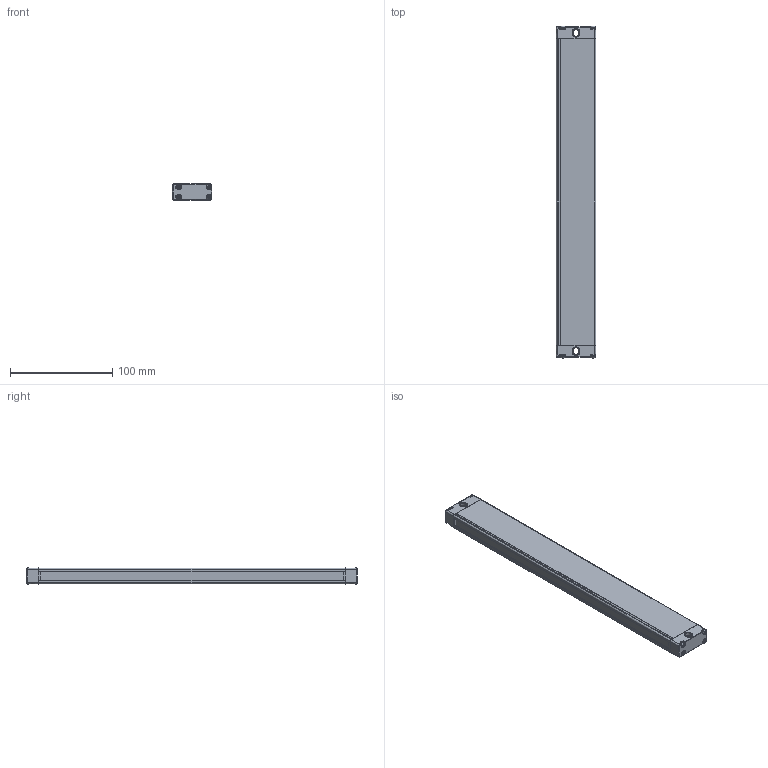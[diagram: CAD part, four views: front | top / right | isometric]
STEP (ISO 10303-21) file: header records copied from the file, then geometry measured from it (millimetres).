
FILE_DESCRIPTION((''),'2;1');
FILE_NAME('EB15--3610_ASM','2021-07-22T11:15:20',('18720616900'),(''),'CREO PARAMETRIC BY PTC INC, 2019010','CREO PARAMETRIC BY PTC INC, 2019010','');
FILE_SCHEMA(('CONFIG_CONTROL_DESIGN'));
Length unit declared in the file: millimetre
Products named in the file (6): EB15-00; EB15-000; EB15-0003; EB15-0004; ST-3-12; EB15--3610_ASM
Assembly tree (12 placements, depth 2):
  EB15--3610_ASM
    EB15-00
    EB15-000
    EB15-0003
    EB15-0004
    ST-3-12  x8
Bounding box: 39.15 x 325 x 15.8 mm (x, y, z)
Volume: 194787.5 mm3; surface area: 51242.3 mm2
Topology: 12 solids, 12 shells, 827 faces, 2188 edges, 1368 vertices
Faces by surface type: plane 242, bspline 188, cone 176, cylinder 165, torus 40, sphere 16
Entity records: 16044 total; most frequent: CARTESIAN_POINT 7660, ORIENTED_EDGE 1804, DIRECTION 1603, EDGE_CURVE 902, AXIS2_PLACEMENT_3D 577, VERTEX_POINT 563, VECTOR 449, LINE 449
